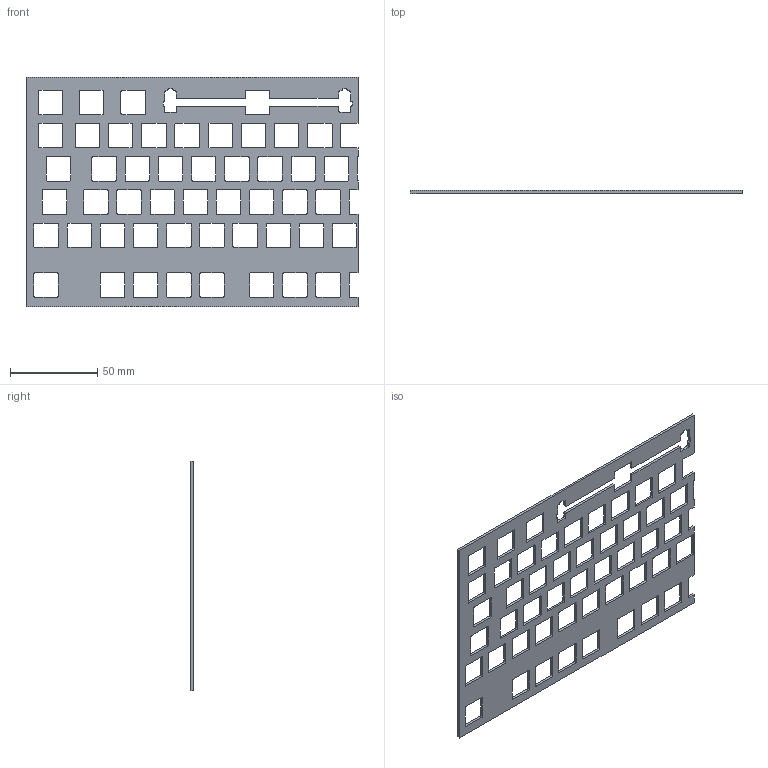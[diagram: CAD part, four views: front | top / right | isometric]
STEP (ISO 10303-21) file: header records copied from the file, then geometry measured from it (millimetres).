
FILE_DESCRIPTION(/* description */ (''),/* implementation_level */ '2;1');
FILE_NAME(/* name */ 'plate LEFT.step',/* time_stamp */ '2026-03-03T07:29:05Z',/* author */ (''),/* organization */ (''),/* preprocessor_version */ 'ST-DEVELOPER v20.1',/* originating_system */ 'Autodesk Translation Framework v14.24.0.0',/* authorisation */ '');
FILE_SCHEMA (('AUTOMOTIVE_DESIGN { 1 0 10303 214 3 1 1 }'));
Length unit declared in the file: millimetre
Products named in the file (1): plate
Bounding box: 190.58 x 1.5 x 131.82 mm (x, y, z)
Volume: 22058.1 mm3; surface area: 34818 mm2
Topology: 1 solids, 1 shells, 476 faces, 1422 edges, 948 vertices
Faces by surface type: plane 248, cylinder 228
Entity records: 16358 total; most frequent: CARTESIAN_POINT 2847, ORIENTED_EDGE 2844, DIRECTION 2832, EDGE_CURVE 1422, LINE 966, VECTOR 966, VERTEX_POINT 948, AXIS2_PLACEMENT_3D 933
